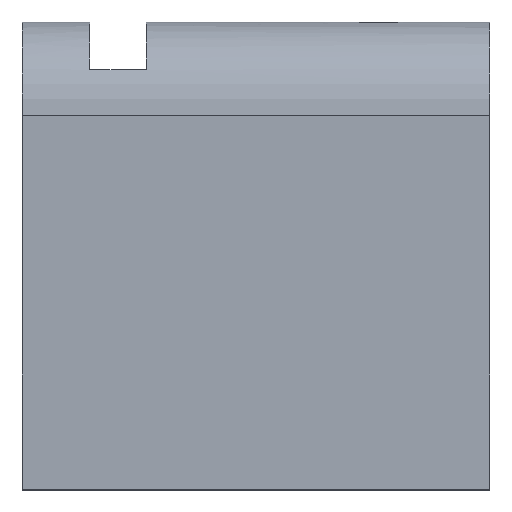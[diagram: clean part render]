
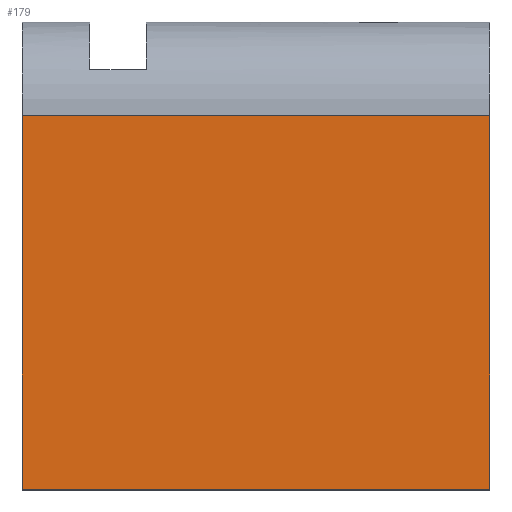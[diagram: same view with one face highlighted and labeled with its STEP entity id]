
A CAD part, top view. The second image highlights one B-rep face of the part: STEP entity #179.
In plain terms, the highlighted planar face has unit normal (0, 0, 1).
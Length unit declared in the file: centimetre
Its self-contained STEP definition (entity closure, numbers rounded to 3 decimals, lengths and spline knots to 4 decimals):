
#48 = LINE ( 'NONE', #1101, #1003 ) ;
#59 = CARTESIAN_POINT ( 'NONE',  ( 0., 799.4047, 1000. ) ) ;
#132 = ORIENTED_EDGE ( 'NONE', *, *, #1136, .T. ) ;
#179 = ADVANCED_FACE ( 'NONE', ( #646 ), #765, .T. ) ;
#241 = LINE ( 'NONE', #601, #469 ) ;
#268 = VERTEX_POINT ( 'NONE', #1044 ) ;
#297 = VECTOR ( 'NONE', #958, 100. ) ;
#299 = EDGE_CURVE ( 'NONE', #1199, #1363, #578, .T. ) ;
#462 = DIRECTION ( 'NONE',  ( -1., 0., 0. ) ) ;
#469 = VECTOR ( 'NONE', #1071, 100. ) ;
#539 = DIRECTION ( 'NONE',  ( 0., 0., 1. ) ) ;
#570 = AXIS2_PLACEMENT_3D ( 'NONE', #664, #539, #1469 ) ;
#578 = LINE ( 'NONE', #1414, #637 ) ;
#601 = CARTESIAN_POINT ( 'NONE',  ( 0., 1000., 1000. ) ) ;
#637 = VECTOR ( 'NONE', #462, 100. ) ;
#646 = FACE_OUTER_BOUND ( 'NONE', #982, .T. ) ;
#664 = CARTESIAN_POINT ( 'NONE',  ( 0., 0., 1000. ) ) ;
#723 = LINE ( 'NONE', #1312, #297 ) ;
#765 = PLANE ( 'NONE',  #570 ) ;
#854 = EDGE_CURVE ( 'NONE', #268, #1199, #48, .T. ) ;
#958 = DIRECTION ( 'NONE',  ( 1., 0., 0. ) ) ;
#982 = EDGE_LOOP ( 'NONE', ( #1125, #1233, #132, #1428 ) ) ;
#1003 = VECTOR ( 'NONE', #1212, 100. ) ;
#1044 = CARTESIAN_POINT ( 'NONE',  ( 1000., 0., 1000. ) ) ;
#1071 = DIRECTION ( 'NONE',  ( 0., -1., 0. ) ) ;
#1088 = CARTESIAN_POINT ( 'NONE',  ( 1000., 799.4047, 1000. ) ) ;
#1101 = CARTESIAN_POINT ( 'NONE',  ( 1000., 1000., 1000. ) ) ;
#1102 = EDGE_CURVE ( 'NONE', #1447, #268, #723, .T. ) ;
#1106 = CARTESIAN_POINT ( 'NONE',  ( 0., 0., 1000. ) ) ;
#1125 = ORIENTED_EDGE ( 'NONE', *, *, #854, .T. ) ;
#1136 = EDGE_CURVE ( 'NONE', #1363, #1447, #241, .T. ) ;
#1199 = VERTEX_POINT ( 'NONE', #1088 ) ;
#1212 = DIRECTION ( 'NONE',  ( 0., 1., 0. ) ) ;
#1233 = ORIENTED_EDGE ( 'NONE', *, *, #299, .T. ) ;
#1312 = CARTESIAN_POINT ( 'NONE',  ( 0., 0., 1000. ) ) ;
#1363 = VERTEX_POINT ( 'NONE', #59 ) ;
#1414 = CARTESIAN_POINT ( 'NONE',  ( 0., 799.4047, 1000. ) ) ;
#1428 = ORIENTED_EDGE ( 'NONE', *, *, #1102, .T. ) ;
#1447 = VERTEX_POINT ( 'NONE', #1106 ) ;
#1469 = DIRECTION ( 'NONE',  ( 1., 0., 0. ) ) ;
